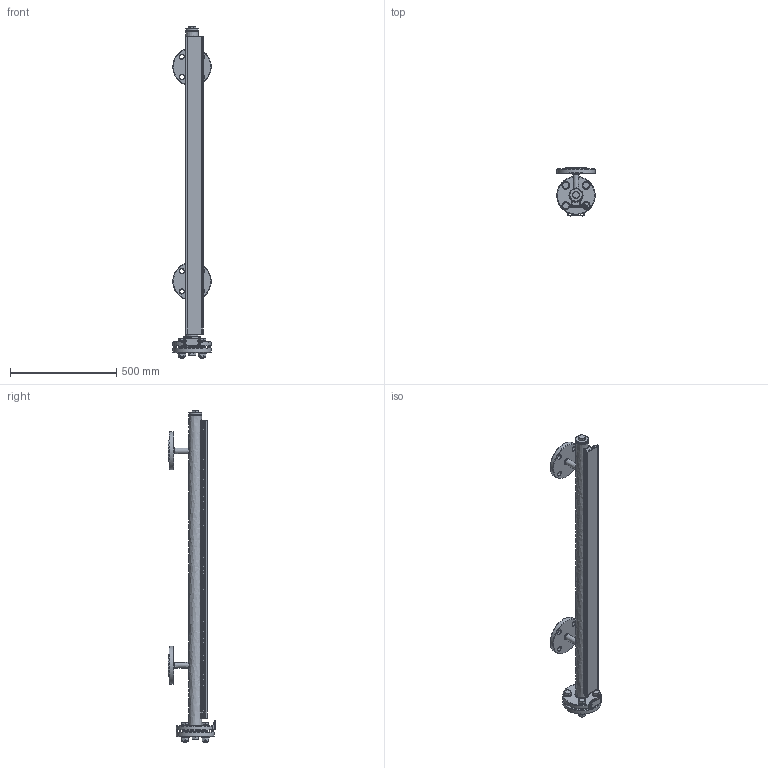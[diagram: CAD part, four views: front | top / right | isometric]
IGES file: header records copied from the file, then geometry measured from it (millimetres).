
Global section: file name: ML_E_3; native system: Autodesk Inventor 2015; preprocessor: unknown; author: aantal; date: 20151021.144323; units: millimetre
Bounding box: 180 x 224.5 x 1563.5 mm (x, y, z)
Volume: 4235169.1 mm3; surface area: 1649166.4 mm2
Topology: 33 solids, 33 shells, 943 faces, 2446 edges, 1610 vertices
Faces by surface type: bspline 943
